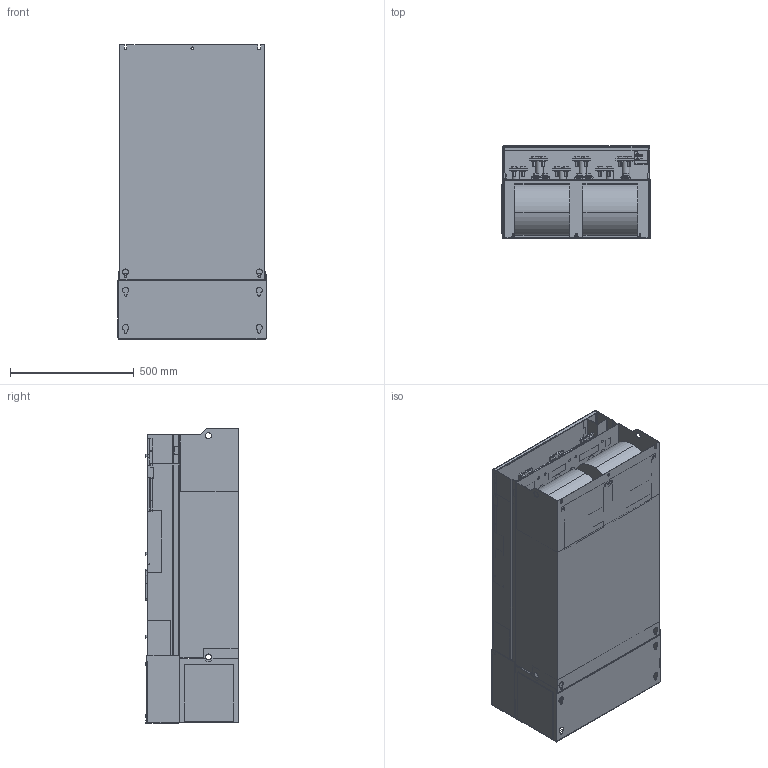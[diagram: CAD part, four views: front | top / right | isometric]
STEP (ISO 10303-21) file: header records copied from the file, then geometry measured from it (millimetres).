
FILE_DESCRIPTION((''),'2;1');
FILE_NAME('VFAS3_SA8_ASM','2016-08-30T',('SESA237464'),('Schneider-Electric'),'PRO/ENGINEER BY PARAMETRIC TECHNOLOGY CORPORATION, 2012420','PRO/ENGINEER BY PARAMETRIC TECHNOLOGY CORPORATION, 2012420','');
FILE_SCHEMA(('CONFIG_CONTROL_DESIGN'));
Products named in the file (23): PRT1006; PRT1007; PRT1008; PRT3001; PRT1011; PRT1013; PRT1014; PRT1015; PRT1016; PRT1017; PRT1018; PRT1019; PRT1020; PRT1021; PRT3002; PRT1022; PRT1023; PRT1024; PRT1025; PRT1009; PRT1010; PRT1012; VFAS3_SA8_ASM
Assembly tree (61 placements, depth 2):
  VFAS3_SA8_ASM
    PRT1006
    PRT1007  x2
    PRT1008
    PRT3001  x5
    PRT1011  x5
    PRT1013  x7
    PRT1014
    PRT1015  x2
    PRT1016  x2
    PRT1017  x2
    PRT1018
    PRT1019
    PRT1020
    PRT1021  x2
    PRT3002
    PRT1022
    PRT1023
    PRT1024
    PRT1025
    PRT1009  x5
    PRT1010  x12
    PRT1012  x6
Bounding box: 598 x 377 x 1190 mm (x, y, z)
Volume: 19178517.6 mm3; surface area: 7365855.6 mm2
Topology: 60 solids, 61 shells, 7149 faces, 20488 edges, 13601 vertices
Faces by surface type: plane 6394, cylinder 626, cone 98, torus 26, bspline 4, extrusion 1
Entity records: 216362 total; most frequent: CARTESIAN_POINT 39184, ORIENTED_EDGE 37658, DIRECTION 32553, EDGE_CURVE 18829, VECTOR 17669, LINE 17668, VERTEX_POINT 12511, EDGE_LOOP 9106
